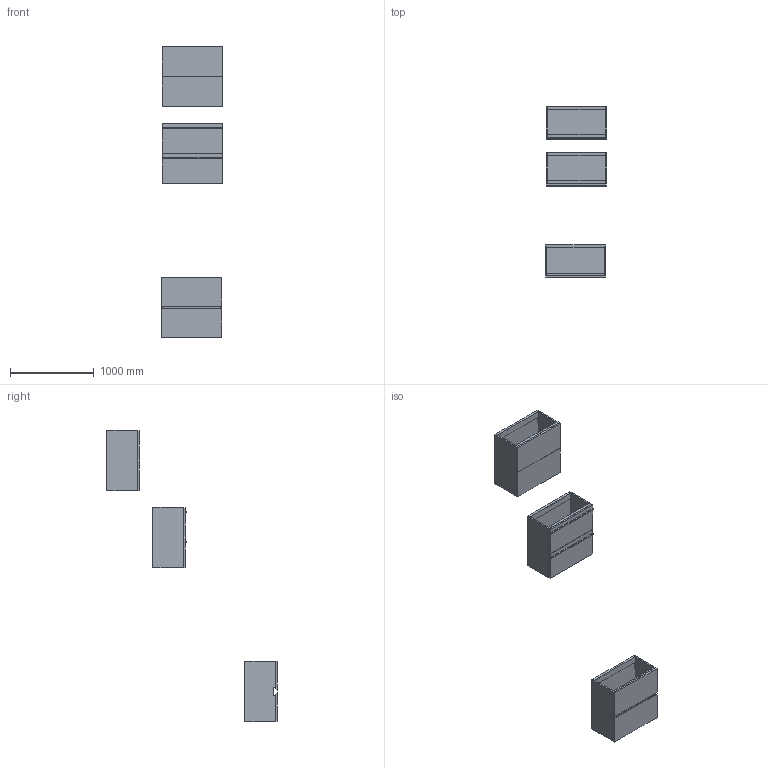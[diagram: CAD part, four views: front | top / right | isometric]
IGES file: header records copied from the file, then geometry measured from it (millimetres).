
Start section: Data from Parasolid IGES Translator 19.0.9, Copyright(c) 2006 Siemens PL M Software. All Rights Reserved.
Global section: file name: noorth-SI-H 72 D 38,8 W 72_8594.igs; native system: By Siemens PLM Incorporated; preprocessor: XPlus GENERIC/IGES 19.0.9; author: Noname; organization: Noname; date: 20200601.114758; units: metre
Bounding box: 731.38 x 2036 x 3480.32 mm (x, y, z)
Volume: 76437926.8 mm3; surface area: 12021313 mm2
Topology: 27 solids, 27 shells, 266 faces, 580 edges, 348 vertices
Faces by surface type: plane 182, extrusion 36, bspline 32, cylinder 16
